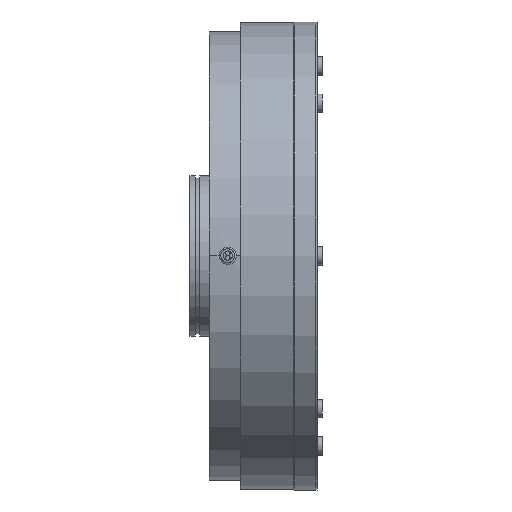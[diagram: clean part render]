
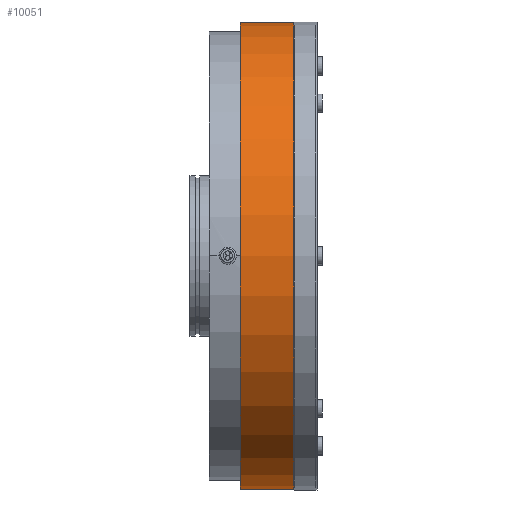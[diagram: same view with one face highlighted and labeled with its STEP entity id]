
A CAD part, top view. The second image highlights one B-rep face of the part: STEP entity #10051.
In plain terms, the highlighted cylindrical face has radius 204 mm (diameter 408 mm), a full revolution.
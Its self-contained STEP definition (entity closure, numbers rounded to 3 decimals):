
#1216=FACE_OUTER_BOUND('',#1912,.T.);
#1912=EDGE_LOOP('',(#8752,#8753,#8754,#8755,#8756,#8757));
#2412=LINE('',#17417,#2895);
#2895=VECTOR('',#14336,204.);
#3757=CIRCLE('',#11324,204.);
#3758=CIRCLE('',#11325,204.);
#3787=CIRCLE('',#11364,204.);
#3788=CIRCLE('',#11365,204.);
#4720=VERTEX_POINT('',#17337);
#4721=VERTEX_POINT('',#17338);
#4750=VERTEX_POINT('',#17412);
#4751=VERTEX_POINT('',#17413);
#6093=EDGE_CURVE('',#4720,#4721,#3757,.T.);
#6094=EDGE_CURVE('',#4721,#4720,#3758,.T.);
#6128=EDGE_CURVE('',#4750,#4751,#3787,.T.);
#6129=EDGE_CURVE('',#4751,#4750,#3788,.T.);
#6130=EDGE_CURVE('',#4721,#4751,#2412,.T.);
#8752=ORIENTED_EDGE('',*,*,#6093,.F.);
#8753=ORIENTED_EDGE('',*,*,#6094,.F.);
#8754=ORIENTED_EDGE('',*,*,#6130,.T.);
#8755=ORIENTED_EDGE('',*,*,#6129,.T.);
#8756=ORIENTED_EDGE('',*,*,#6128,.T.);
#8757=ORIENTED_EDGE('',*,*,#6130,.F.);
#9616=CYLINDRICAL_SURFACE('',#11366,204.);
#10051=ADVANCED_FACE('',(#1216),#9616,.T.);
#11324=AXIS2_PLACEMENT_3D('',#17339,#14245,#14246);
#11325=AXIS2_PLACEMENT_3D('',#17340,#14247,#14248);
#11364=AXIS2_PLACEMENT_3D('',#17414,#14330,#14331);
#11365=AXIS2_PLACEMENT_3D('',#17415,#14332,#14333);
#11366=AXIS2_PLACEMENT_3D('',#17416,#14334,#14335);
#14245=DIRECTION('center_axis',(1.,0.,0.));
#14246=DIRECTION('ref_axis',(0.,0.,
-1.));
#14247=DIRECTION('center_axis',(1.,0.,0.));
#14248=DIRECTION('ref_axis',(0.,0.,
-1.));
#14330=DIRECTION('center_axis',(1.,0.,0.));
#14331=DIRECTION('ref_axis',(0.,0.,
-1.));
#14332=DIRECTION('center_axis',(1.,0.,0.));
#14333=DIRECTION('ref_axis',(0.,0.,
-1.));
#14334=DIRECTION('center_axis',(1.,0.,0.));
#14335=DIRECTION('ref_axis',(0.,0.,
-1.));
#14336=DIRECTION('',(-1.,0.,0.));
#17337=CARTESIAN_POINT('',(47.85,0.,-204.));
#17338=CARTESIAN_POINT('',(47.85,0.,204.));
#17339=CARTESIAN_POINT('Origin',(47.85,0.,
0.));
#17340=CARTESIAN_POINT('Origin',(47.85,0.,
0.));
#17412=CARTESIAN_POINT('',(1.15,0.,-204.));
#17413=CARTESIAN_POINT('',(1.15,0.,204.));
#17414=CARTESIAN_POINT('Origin',(1.15,0.,
0.));
#17415=CARTESIAN_POINT('Origin',(1.15,0.,
0.));
#17416=CARTESIAN_POINT('Origin',(24.5,0.,
0.));
#17417=CARTESIAN_POINT('',(24.5,0.,204.));
